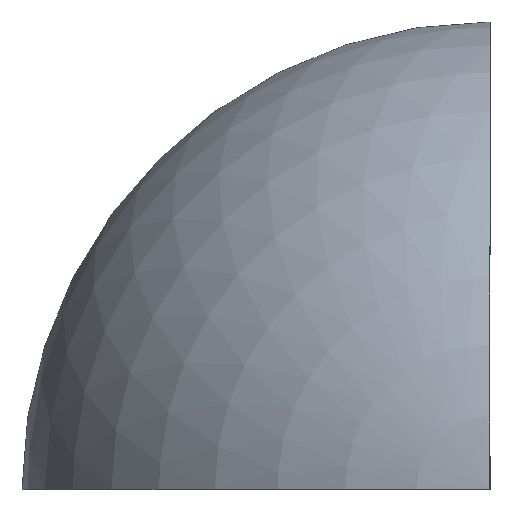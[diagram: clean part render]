
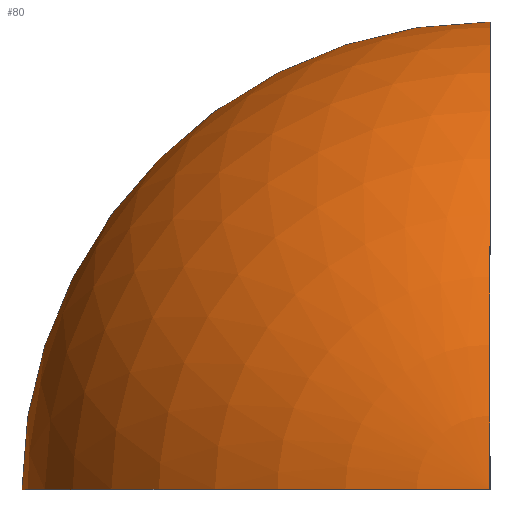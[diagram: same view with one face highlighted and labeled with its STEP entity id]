
A CAD part, top view. The second image highlights one B-rep face of the part: STEP entity #80.
In plain terms, the highlighted spherical face has radius 30 mm.
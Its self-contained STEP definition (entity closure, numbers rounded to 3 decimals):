
#29=ORIENTED_EDGE('',*,*,#47,.F.);
#30=ORIENTED_EDGE('',*,*,#48,.T.);
#31=ORIENTED_EDGE('',*,*,#49,.F.);
#47=EDGE_CURVE('',#56,#57,#62,.T.);
#48=EDGE_CURVE('',#56,#58,#63,.T.);
#49=EDGE_CURVE('',#57,#58,#64,.T.);
#56=VERTEX_POINT('',#139);
#57=VERTEX_POINT('',#140);
#58=VERTEX_POINT('',#142);
#62=CIRCLE('',#99,30.);
#63=CIRCLE('',#100,30.);
#64=CIRCLE('',#101,30.);
#68=EDGE_LOOP('',(#29,#30,#31));
#73=FACE_BOUND('',#68,.T.);
#78=SPHERICAL_SURFACE('',#98,30.);
#80=ADVANCED_FACE('',(#73),#78,.T.);
#98=AXIS2_PLACEMENT_3D('',#137,#111,#112);
#99=AXIS2_PLACEMENT_3D('',#138,#113,#114);
#100=AXIS2_PLACEMENT_3D('',#141,#115,#116);
#101=AXIS2_PLACEMENT_3D('',#143,#117,#118);
#111=DIRECTION('',(0.,0.,-1.));
#112=DIRECTION('',(-1.,0.,0.));
#113=DIRECTION('',(0.,0.,-1.));
#114=DIRECTION('',(-1.,0.,0.));
#115=DIRECTION('',(0.,1.,0.));
#116=DIRECTION('',(0.,0.,1.));
#117=DIRECTION('',(1.,0.,0.));
#118=DIRECTION('',(0.,1.,0.));
#137=CARTESIAN_POINT('',(0.,0.,30.));
#138=CARTESIAN_POINT('',(0.,0.,30.));
#139=CARTESIAN_POINT('',(-30.,0.,30.));
#140=CARTESIAN_POINT('',(0.,30.,30.));
#141=CARTESIAN_POINT('',(0.,0.,30.));
#142=CARTESIAN_POINT('',(0.,0.,60.));
#143=CARTESIAN_POINT('',(0.,0.,30.));
